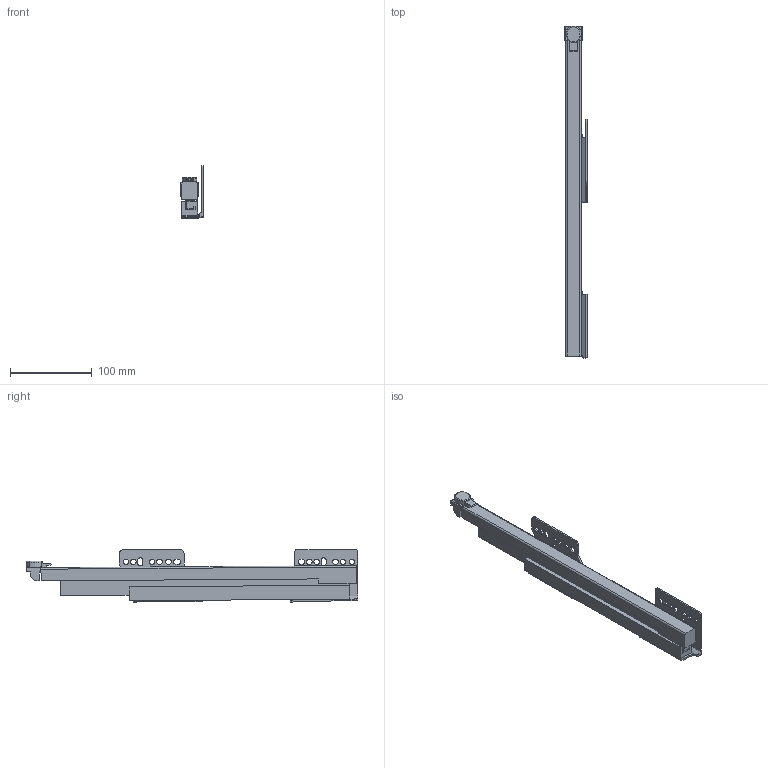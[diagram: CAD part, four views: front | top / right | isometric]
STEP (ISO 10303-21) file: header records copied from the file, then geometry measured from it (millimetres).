
FILE_DESCRIPTION (( 'STEP AP214' ), '1' );
FILE_NAME ('_IMOS_NOVA-Pro_KS_TL_EB29mm_RE_NL400.step', '2010-07-15T11:34:31', ( 'grass' ), ( '' ), 'SwSTEP 2.0', 'SolidWorks 2009', '' );
FILE_SCHEMA (( 'AUTOMOTIVE_DESIGN' ));
Length unit declared in the file: millimetre
Products named in the file (1): _IMOS_NOVA-Pro_KS_TL_EB29mm_RE_NL400
Bounding box: 27.95 x 405.61 x 64.46 mm (x, y, z)
Volume: 283451.5 mm3; surface area: 123319.5 mm2
Topology: 8 solids, 8 shells, 185 faces, 496 edges, 328 vertices
Faces by surface type: plane 116, cylinder 64, torus 5
Entity records: 5964 total; most frequent: CARTESIAN_POINT 1097, ORIENTED_EDGE 992, DIRECTION 972, EDGE_CURVE 496, LINE 350, VECTOR 350, VERTEX_POINT 328, AXIS2_PLACEMENT_3D 311
